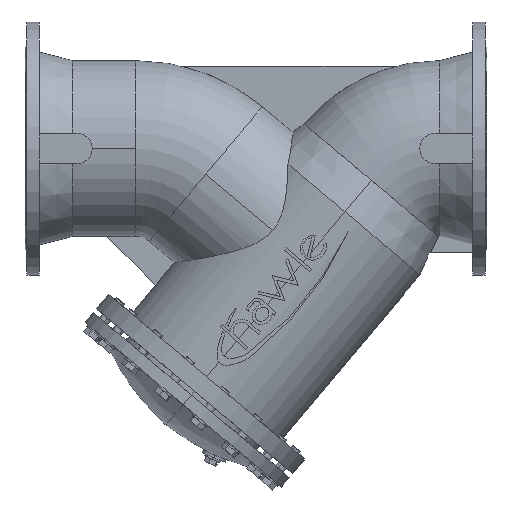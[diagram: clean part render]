
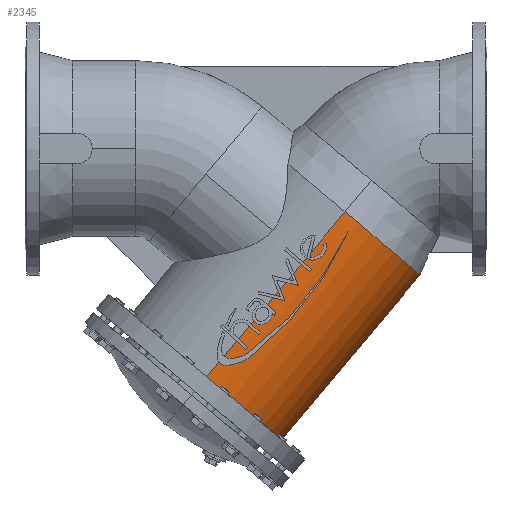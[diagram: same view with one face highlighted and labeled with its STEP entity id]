
A CAD part, front view. The second image highlights one B-rep face of the part: STEP entity #2345.
In plain terms, the highlighted cylindrical face has radius 155 mm (diameter 310 mm), a partial arc.
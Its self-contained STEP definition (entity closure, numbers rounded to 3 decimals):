
#2345=ADVANCED_FACE('',(#4396),#4397,.T.);
#4396=FACE_OUTER_BOUND('',#6782,.T.);
#4397=CYLINDRICAL_SURFACE('',#6783,155.);
#6782=EDGE_LOOP('',(#10747,#10748,#10749,#10750));
#6783=AXIS2_PLACEMENT_3D('',#10751,#10752,#10753);
#10747=ORIENTED_EDGE('',*,*,#14088,.T.);
#10748=ORIENTED_EDGE('',*,*,#13694,.T.);
#10749=ORIENTED_EDGE('',*,*,#14089,.T.);
#10750=ORIENTED_EDGE('',*,*,#13165,.T.);
#10751=CARTESIAN_POINT('',(-224.293,0.,-100.16));
#10752=DIRECTION('',(-0.643,0.,-0.766));
#10753=DIRECTION('',(0.,-1.0,0.));
#13165=EDGE_CURVE('',#15577,#15575,#15578,.T.);
#13694=EDGE_CURVE('',#16356,#16357,#16358,.T.);
#14088=EDGE_CURVE('',#15575,#16356,#16879,.T.);
#14089=EDGE_CURVE('',#16357,#15577,#16880,.T.);
#15575=VERTEX_POINT('',#18772);
#15577=VERTEX_POINT('',#18774);
#15578=CIRCLE('',#18775,155.);
#16356=VERTEX_POINT('',#19993);
#16357=VERTEX_POINT('',#19994);
#16358=CIRCLE('',#19995,155.);
#16879=LINE('',#20782,#20783);
#16880=LINE('',#20784,#20785);
#18772=CARTESIAN_POINT('',(-224.293,-155.,-100.16));
#18774=CARTESIAN_POINT('',(-224.293,155.,-100.16));
#18775=AXIS2_PLACEMENT_3D('',#22128,#22129,#22130);
#19993=CARTESIAN_POINT('',(-442.841,-155.,-360.615));
#19994=CARTESIAN_POINT('',(-442.841,155.,-360.615));
#19995=AXIS2_PLACEMENT_3D('',#22841,#22842,#22843);
#20782=CARTESIAN_POINT('',(-224.293,-155.,-100.16));
#20783=VECTOR('',#23293,1.0);
#20784=CARTESIAN_POINT('',(-224.293,155.,-100.16));
#20785=VECTOR('',#23294,1.0);
#22128=CARTESIAN_POINT('',(-224.293,0.,-100.16));
#22129=DIRECTION('',(-0.643,0.,-0.766));
#22130=DIRECTION('',(0.,-1.0,0.));
#22841=CARTESIAN_POINT('',(-442.841,0.,-360.615));
#22842=DIRECTION('',(0.643,0.,0.766));
#22843=DIRECTION('',(0.,-1.0,0.));
#23293=DIRECTION('',(-0.643,0.,-0.766));
#23294=DIRECTION('',(0.643,0.,0.766));
